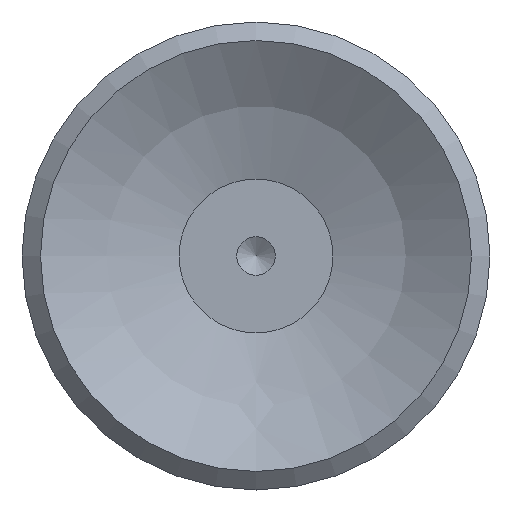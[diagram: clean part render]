
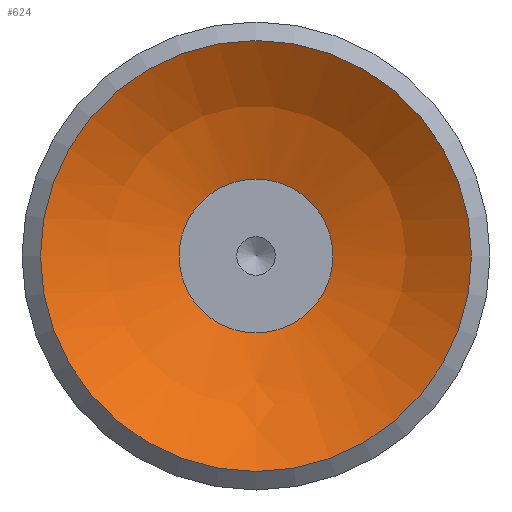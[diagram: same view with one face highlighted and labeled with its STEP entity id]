
A CAD part, front view. The second image highlights one B-rep face of the part: STEP entity #624.
In plain terms, the highlighted spherical face has radius 11.5 mm.
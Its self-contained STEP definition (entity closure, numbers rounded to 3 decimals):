
#624=ADVANCED_FACE('',(#1090,#1091),#1092,.F.);
#1090=FACE_OUTER_BOUND('',#1608,.T.);
#1091=FACE_OUTER_BOUND('',#1609,.T.);
#1092=SPHERICAL_SURFACE('',#1610,11.5);
#1608=EDGE_LOOP('',(#2921));
#1609=EDGE_LOOP('',(#2922));
#1610=AXIS2_PLACEMENT_3D('',#2923,#2924,#2925);
#2921=ORIENTED_EDGE('',*,*,#3578,.T.);
#2922=ORIENTED_EDGE('',*,*,#3518,.F.);
#2923=CARTESIAN_POINT('',(0.001,9.494,-22.735));
#2924=DIRECTION('',(0.0,0.,-1.0));
#2925=DIRECTION('',(1.0,0.0,0.0));
#3518=EDGE_CURVE('',#4185,#4185,#4186,.T.);
#3578=EDGE_CURVE('',#4280,#4280,#4281,.T.);
#4185=VERTEX_POINT('',#5938);
#4186=CIRCLE('',#5939,2.5);
#4280=VERTEX_POINT('',#6033);
#4281=CIRCLE('',#6034,7.0);
#5938=CARTESIAN_POINT('',(0.001,11.994,-11.51));
#5939=AXIS2_PLACEMENT_3D('',#6604,#6605,#6606);
#6033=CARTESIAN_POINT('',(0.001,16.494,-13.611));
#6034=AXIS2_PLACEMENT_3D('',#6784,#6785,#6786);
#6604=CARTESIAN_POINT('',(0.001,9.494,-11.51));
#6605=DIRECTION('',(0.0,0.,-1.0));
#6606=DIRECTION('',(0.0,1.0,0.));
#6784=CARTESIAN_POINT('',(0.001,9.494,-13.611));
#6785=DIRECTION('',(0.0,0.,-1.0));
#6786=DIRECTION('',(0.0,1.0,0.));
